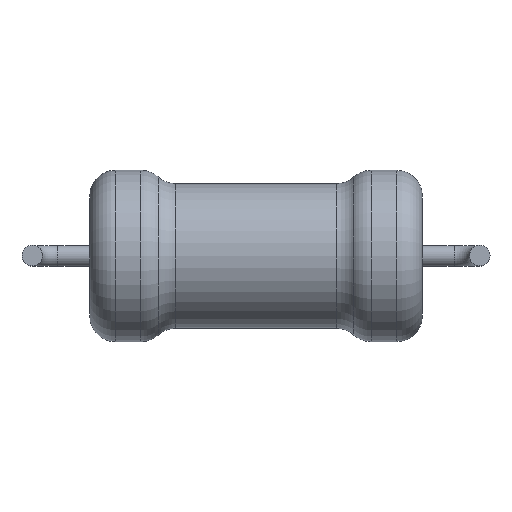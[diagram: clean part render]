
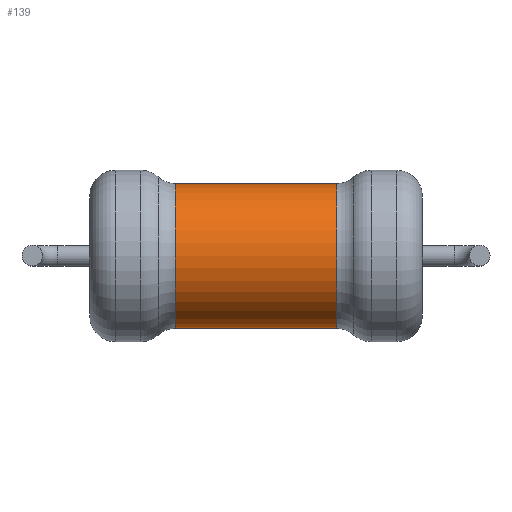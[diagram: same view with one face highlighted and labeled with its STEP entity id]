
A CAD part, top view. The second image highlights one B-rep face of the part: STEP entity #139.
In plain terms, the highlighted cylindrical face has radius 2.834 mm (diameter 5.668 mm), a full revolution.
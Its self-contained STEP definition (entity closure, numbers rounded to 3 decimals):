
#139=ADVANCED_FACE('',(#308,#310),#312,.T.);
#308=FACE_OUTER_BOUND('',#309,.T.);
#309=EDGE_LOOP('',(#413));
#310=FACE_OUTER_BOUND('',#311,.T.);
#311=EDGE_LOOP('',(#414));
#312=CYLINDRICAL_SURFACE('',#313,2.834);
#313=AXIS2_PLACEMENT_3D('',#314,#315,#316);
#314=CARTESIAN_POINT('',(3.159,0.,0.));
#315=DIRECTION('',(-1.,0.,0.));
#316=DIRECTION('',(0.,0.,1.));
#413=ORIENTED_EDGE('',*,*,#440,.T.);
#414=ORIENTED_EDGE('',*,*,#441,.F.);
#440=EDGE_CURVE('',#466,#466,#467,.T.);
#441=EDGE_CURVE('',#468,#468,#469,.T.);
#466=VERTEX_POINT('',#526);
#467=CIRCLE('',#527,2.834);
#468=VERTEX_POINT('',#531);
#469=CIRCLE('',#532,2.834);
#526=CARTESIAN_POINT('',(3.159,0.,2.834));
#527=AXIS2_PLACEMENT_3D('',#528,#529,#530);
#528=CARTESIAN_POINT('',(3.159,0.,0.));
#529=DIRECTION('',(-1.,0.,0.));
#530=DIRECTION('',(0.,0.,1.));
#531=CARTESIAN_POINT('',(-3.159,0.,2.834));
#532=AXIS2_PLACEMENT_3D('',#533,#534,#535);
#533=CARTESIAN_POINT('',(-3.159,0.,0.));
#534=DIRECTION('',(-1.,0.,0.));
#535=DIRECTION('',(0.,0.,1.));
